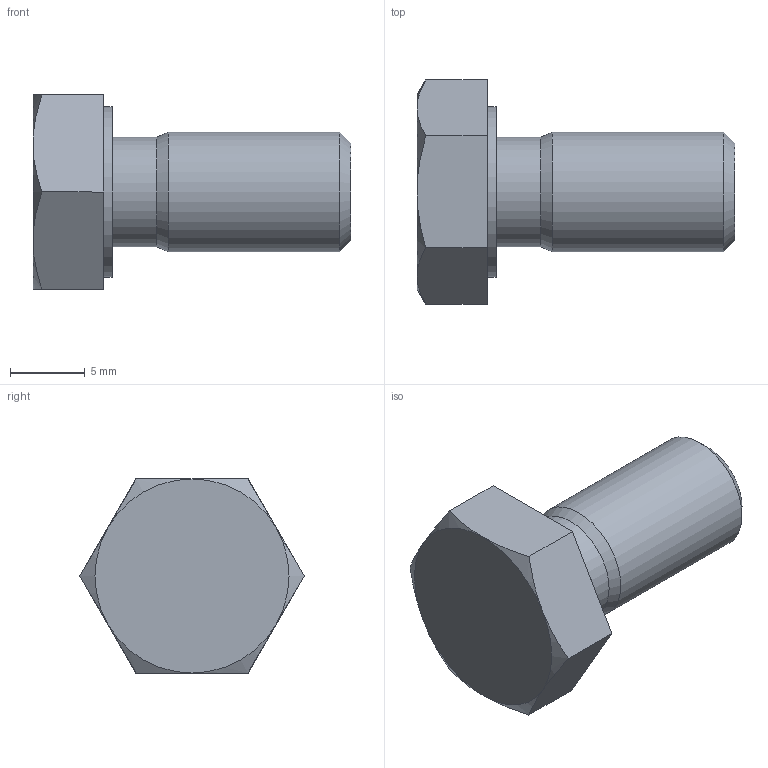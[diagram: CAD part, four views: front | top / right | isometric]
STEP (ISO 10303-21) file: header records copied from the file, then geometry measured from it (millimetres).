
FILE_DESCRIPTION(/* description */ ('Sechskantschraube DIN 933 - M8x16','CAx-IF Rec.Pracs.---Representation and Presentation of Product Manufacturing Information (PMI)---4.0---2014-10-13'),/* implementation_level */ '2;1');
FILE_NAME(/* name */ 'G:\Alle CAD Daten\CAMTEC_2020_Pack and Go\PSU CPS-i3000 - CPS-i2000\2530380.stp',/* time_stamp */ '2020-09-20T19:51:05+02:00',/* author */ ('rryba'),/* organization */ (''),/* preprocessor_version */ 'ST-DEVELOPER v18.1',/* originating_system */ 'Autodesk Inventor 2021',/* authorisation */ '');
FILE_SCHEMA (('AP242_MANAGED_MODEL_BASED_3D_ENGINEERING_MIM_LF { 1 0 10303 442 1 1 4 }'));
Length unit declared in the file: millimetre
Products named in the file (1): 2530380
Bounding box: 21.3 x 15.01 x 13 mm (x, y, z)
Volume: 1516.6 mm3; surface area: 911.8 mm2
Topology: 1 solids, 1 shells, 21 faces, 64 edges, 68 vertices
Faces by surface type: plane 10, cone 8, cylinder 3
Full cylindrical faces by diameter (mm): 7.323 x1, 8 x1, 11.4 x1
Entity records: 686 total; most frequent: CARTESIAN_POINT 157, DIRECTION 89, ORIENTED_EDGE 86, EDGE_CURVE 43, AXIS2_PLACEMENT_3D 36, VERTEX_POINT 26, STYLED_ITEM 25, EDGE_LOOP 23
